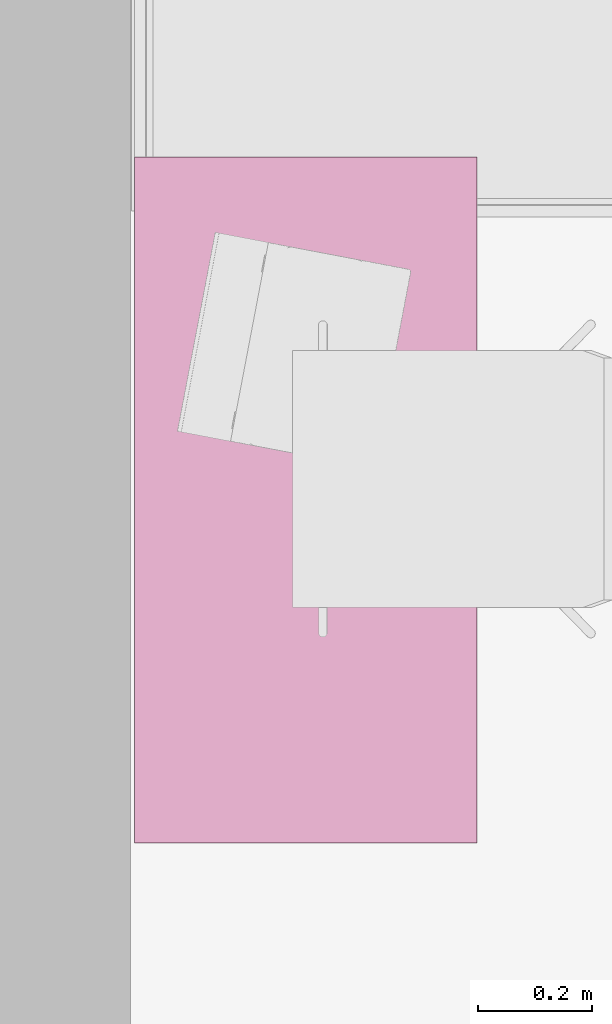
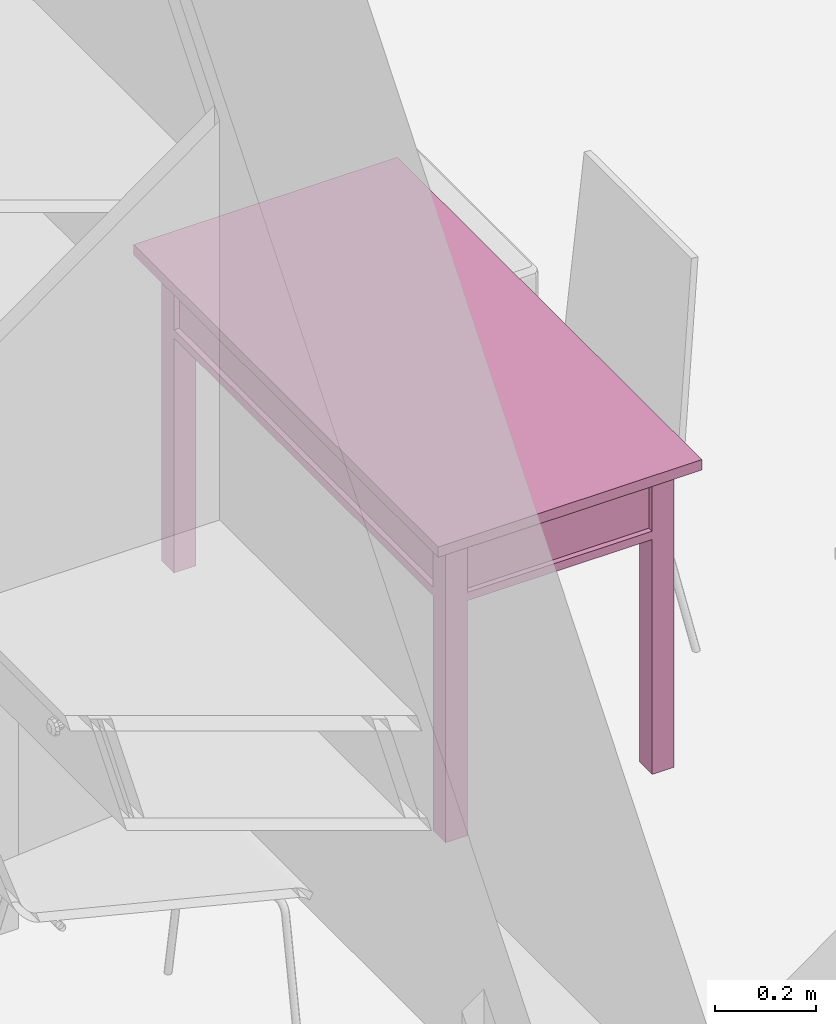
# One storey, part 128 of 172: 1 furnishing.
"""IFC2X3 building model written with IfcOpenShell, lengths in millimetres."""

import ifcopenshell
import ifcopenshell.guid

model = None  # the IFC model being written
_history = None  # IfcOwnerHistory: only IFC2X3 demands one
_inside = {}  # id of a spatial element -> (the spatial element, [elements in it])
_under = {}  # id of a project, library or spatial element -> (it, [spatial elements below it])
_declared = {}  # id of a project -> (the project, [libraries it declares])
_typed = {}  # id of a type object -> (the type object, [elements of that type])
_made_of = {}  # id of a material, layer set ... -> (it, [elements and type objects made of it])


def new_model(schema):
    """Start an empty IFC model of exactly this schema.

    Asked for "IFC4X3", IfcOpenShell would pick the latest addendum, in which some entities
    have other attributes; the version numbers below select the first issue.
    IFC2X3 requires an IfcOwnerHistory on every rooted entity: one is made here for all.
    """
    global model, _history
    if schema == "IFC4X3":
        model = ifcopenshell.file(schema_version=(4, 3, 0, 0))
    else:
        model = ifcopenshell.file(schema=schema)
    _inside.clear()
    _under.clear()
    _declared.clear()
    _typed.clear()
    _made_of.clear()
    _history = None
    if model.schema == "IFC2X3":
        org = make("IfcOrganization", Name="unknown")
        user = make(
            "IfcPersonAndOrganization",
            ThePerson=make("IfcPerson", FamilyName="unknown"),
            TheOrganization=org,
        )
        app = make(
            "IfcApplication",
            ApplicationDeveloper=org,
            Version="unknown",
            ApplicationFullName="unknown",
            ApplicationIdentifier="unknown",
        )
        _history = make(
            "IfcOwnerHistory",
            OwningUser=user,
            OwningApplication=app,
            ChangeAction="ADDED",
            CreationDate=0,
        )
    return model


def make(cls, **values):
    """One entity of the class cls with the attributes given. An attribute that is None is left unset."""
    return model.create_entity(
        cls, **{name: value for name, value in values.items() if value is not None}
    )


def entity(cls, *values):
    """Any entity or typed value of the class cls, its attributes in the order of the schema. None: left unset."""
    e = model.create_entity(cls)
    for i, value in enumerate(values):
        if value is not None:
            e[i] = value
    return e


def rooted(cls, **values):
    """An entity with a GlobalId (a new one), such as an element, a storey or a relation."""
    return make(cls, GlobalId=ifcopenshell.guid.new(), OwnerHistory=_history, **values)


def si_unit(unit_type, name, prefix=None):
    """IfcSIUnit, for example si_unit("LENGTHUNIT", "METRE", prefix="MILLI")."""
    return make("IfcSIUnit", UnitType=unit_type, Prefix=prefix, Name=name)


def converted_unit(unit_type, name, factor, base, dimensions=None, offset=None):
    """IfcConversionBasedUnit, such as the inch: factor (a typed value) times the base unit."""
    return make(
        "IfcConversionBasedUnit"
        if offset is None
        else "IfcConversionBasedUnitWithOffset",
        ConversionOffset=offset,
        Dimensions=None
        if dimensions is None
        else entity("IfcDimensionalExponents", *dimensions),
        UnitType=unit_type,
        Name=name,
        ConversionFactor=make(
            "IfcMeasureWithUnit", ValueComponent=factor, UnitComponent=base
        ),
    )


def money_unit(currency):
    """IfcMonetaryUnit."""
    return make("IfcMonetaryUnit", Currency=currency)


def assignment(units):
    """IfcUnitAssignment: the units of a project."""
    return None if units is None else make("IfcUnitAssignment", Units=units)


def point(xyz):
    """IfcCartesianPoint."""
    return None if xyz is None else make("IfcCartesianPoint", Coordinates=xyz)


def direction(xyz):
    """IfcDirection."""
    return None if xyz is None else make("IfcDirection", DirectionRatios=xyz)


def frame(location, z_axis=None, x_axis=None):
    """IfcAxis2Placement3D, a coordinate frame: its origin and axes. An axis left out is left unset."""
    return make(
        "IfcAxis2Placement3D",
        Location=point(location),
        Axis=direction(z_axis),
        RefDirection=direction(x_axis),
    )


def origin_with_axes():
    """The frame at (0, 0, 0) with the z axis (0, 0, 1) and the x axis (1, 0, 0) written out."""
    return frame((0.0, 0.0, 0.0), z_axis=(0.0, 0.0, 1.0), x_axis=(1.0, 0.0, 0.0))


def place(relative_to, where):
    """IfcLocalPlacement: puts the frame where relative to a parent placement (None: the world)."""
    return make(
        "IfcLocalPlacement", PlacementRelTo=relative_to, RelativePlacement=where
    )


def context(
    kind, dimensions, precision=None, world=None, true_north=None, identifier=None
):
    """IfcGeometricRepresentationContext, for example the 3D "Model" context."""
    return make(
        "IfcGeometricRepresentationContext",
        ContextIdentifier=identifier,
        ContextType=kind,
        CoordinateSpaceDimension=dimensions,
        Precision=precision,
        WorldCoordinateSystem=world,
        TrueNorth=true_north,
    )


def subcontext(parent, identifier, kind, view, scale=None):
    """IfcGeometricRepresentationSubContext, for example "Body" below "Model"."""
    return make(
        "IfcGeometricRepresentationSubContext",
        ContextIdentifier=identifier,
        ContextType=kind,
        ParentContext=parent,
        TargetScale=scale,
        TargetView=view,
    )


def project(units=None, contexts=None):
    """IfcProject with its units and contexts."""
    return rooted(
        "IfcProject",
        Name="project",
        RepresentationContexts=contexts,
        UnitsInContext=assignment(units),
    )


def spatial(cls, under=None, at=None, **own):
    """A site, building, storey or space (cls), placed at a placement, below another one or the project."""
    s = rooted(cls, ObjectPlacement=at, **own)
    if under is not None:
        _under.setdefault(under.id(), (under, []))[1].append(s)
    return s


def faces_of(points, faces, orient=None, outer=None):
    """IfcFace entities. A face is a list of loops; a loop is a list of indices into points, from 0.

    orient and outer hold one flag for each loop. By default every Orientation is true, the
    first loop of a face is its IfcFaceOuterBound and the others are IfcFaceBound.
    """
    made = []
    for i, loops in enumerate(faces):
        bounds = []
        for j, loop in enumerate(loops):
            is_outer = j == 0 if outer is None else outer[i][j]
            bounds.append(
                make(
                    "IfcFaceOuterBound" if is_outer else "IfcFaceBound",
                    Bound=make("IfcPolyLoop", Polygon=[points[k] for k in loop]),
                    Orientation=True if orient is None else orient[i][j],
                )
            )
        made.append(make("IfcFace", Bounds=bounds))
    return made


def faceted_brep(points, faces, orient=None, outer=None, voids=None):
    """IfcFacetedBrep: a solid bounded by flat faces; with voids (closed shells), ...WithVoids."""
    shared = [point(p) for p in points]
    hull = make("IfcClosedShell", CfsFaces=faces_of(shared, faces, orient, outer))
    if voids is None:
        return make("IfcFacetedBrep", Outer=hull)
    return make(
        "IfcFacetedBrepWithVoids",
        Outer=hull,
        Voids=[
            make(cls, CfsFaces=faces_of(shared, fs, o, b)) for cls, fs, o, b in voids
        ],
    )


def shape(context_of_items, identifier, shape_type, items):
    """IfcShapeRepresentation: the items that make up one representation, for example the "Body"."""
    return make(
        "IfcShapeRepresentation",
        ContextOfItems=context_of_items,
        RepresentationIdentifier=identifier,
        RepresentationType=shape_type,
        Items=items,
    )


def source(mapping_origin, context_of_items, identifier, shape_type, items):
    """IfcRepresentationMap: a shape defined once, which mapped items show again and again."""
    return make(
        "IfcRepresentationMap",
        MappingOrigin=mapping_origin,
        MappedRepresentation=shape(context_of_items, identifier, shape_type, items),
    )


def transform(
    local_origin,
    x_axis=None,
    y_axis=None,
    z_axis=None,
    scale=None,
    scale2=None,
    scale3=None,
    uniform=True,
):
    """IfcCartesianTransformationOperator3D, or its non-uniform kind. x_axis, y_axis, z_axis: its Axis1, 2, 3."""
    if uniform:
        return make(
            "IfcCartesianTransformationOperator3D",
            Axis1=direction(x_axis),
            Axis2=direction(y_axis),
            LocalOrigin=point(local_origin),
            Scale=scale,
            Axis3=direction(z_axis),
        )
    return make(
        "IfcCartesianTransformationOperator3DnonUniform",
        Axis1=direction(x_axis),
        Axis2=direction(y_axis),
        LocalOrigin=point(local_origin),
        Scale=scale,
        Axis3=direction(z_axis),
        Scale2=scale2,
        Scale3=scale3,
    )


def mapped(mapping_source, mapping_target):
    """IfcMappedItem: shows the shape of a source again, moved by a transform."""
    return make(
        "IfcMappedItem", MappingSource=mapping_source, MappingTarget=mapping_target
    )


def material(Name=None, Category=None):
    """IfcMaterial."""
    return make("IfcMaterial", Name=Name, Category=Category)


def material_list(materials):
    """IfcMaterialList."""
    return make("IfcMaterialList", Materials=materials)


def made_of(thing, what):
    """Note that an element or type object is made of a material, layer set ...; save() writes the relation."""
    if what is not None:
        _made_of.setdefault(what.id(), (what, []))[1].append(thing)
    return thing


def type_object(cls, material=None, **own):
    """A type object (cls), such as IfcWallType, which elements share."""
    return made_of(rooted(cls, **own), material)


def element(
    cls,
    number,
    at=None,
    inside=None,
    cuts=None,
    type_object=None,
    material=None,
    context=None,
    identifier="Body",
    shape_type=None,
    held_by="IfcProductDefinitionShape",
    body=None,
    shapes=None,
    **own,
):
    """One element of the class cls, such as IfcWall. Its Tag is "e" and its number.

    at: its placement. inside: the storey or other place that contains it. cuts: it is an
    opening in that element (IfcRelVoidsElement). A single representation is given by context,
    identifier, shape_type and body (its items); several are given by shapes. held_by: the class
    of the entity that holds the representations. save() writes the other relations.
    """
    e = rooted(cls, Tag="e%d" % number, ObjectPlacement=at, **own)
    if body is not None:
        shapes = [shape(context, identifier, shape_type, body)]
    if shapes is not None:
        e.Representation = make(held_by, Representations=shapes)
    if inside is not None:
        _inside.setdefault(inside.id(), (inside, []))[1].append(e)
    if cuts is not None:
        rooted(
            "IfcRelVoidsElement", RelatingBuildingElement=cuts, RelatedOpeningElement=e
        )
    if type_object is not None:
        _typed.setdefault(type_object.id(), (type_object, []))[1].append(e)
    return made_of(e, material)


def aggregate(whole, parts):
    """IfcRelAggregates: a whole, such as a stair, and the parts it consists of."""
    return rooted("IfcRelAggregates", RelatingObject=whole, RelatedObjects=parts)


def save(model, path):
    """Write the relations noted so far, then the file.

    IfcRelAggregates (storeys below a building ...), IfcRelContainedInSpatialStructure (elements
    in a storey), IfcRelDefinesByType, IfcRelAssociatesMaterial and IfcRelDeclares: one each for
    every whole, place, type object, material and project.
    """
    for whole, parts in _under.values():
        aggregate(whole, parts)
    for where, things in _inside.values():
        rooted(
            "IfcRelContainedInSpatialStructure",
            RelatedElements=things,
            RelatingStructure=where,
        )
    for kind, things in _typed.values():
        rooted("IfcRelDefinesByType", RelatedObjects=things, RelatingType=kind)
    for what, things in _made_of.values():
        rooted("IfcRelAssociatesMaterial", RelatedObjects=things, RelatingMaterial=what)
    for by, libraries in _declared.values():
        rooted("IfcRelDeclares", RelatingContext=by, RelatedDefinitions=libraries)
    model.write(path)


model = new_model("IFC2X3")

# Units and contexts
model_context = context("Model", 3, precision=1e-05, world=origin_with_axes(), true_north=direction((0.0, 1.0)))
body_context = subcontext(model_context, "Body", "Model", "MODEL_VIEW")
ifc_project = project(units=[si_unit("LENGTHUNIT", "METRE", prefix="MILLI"), si_unit("AREAUNIT", "SQUARE_METRE"), si_unit("VOLUMEUNIT", "CUBIC_METRE"), converted_unit("PLANEANGLEUNIT", "DEGREE", entity("IfcPlaneAngleMeasure", 0.0174532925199), si_unit("PLANEANGLEUNIT", "RADIAN"), dimensions=[0, 0, 0, 0, 0, 0, 0]), si_unit("SOLIDANGLEUNIT", "STERADIAN"), money_unit("USD"), converted_unit("TIMEUNIT", "Year", entity("IfcTimeMeasure", 31556926.0), si_unit("TIMEUNIT", "SECOND"), dimensions=[0, 0, 0, 0, 0, 0, 0]), si_unit("MASSUNIT", "GRAM"), si_unit("THERMODYNAMICTEMPERATUREUNIT", "DEGREE_CELSIUS"), si_unit("LUMINOUSINTENSITYUNIT", "LUMEN")], contexts=[model_context])

# Site, building, storey
site_placement = place(None, origin_with_axes())
site = spatial("IfcSite", under=ifc_project, at=site_placement, Name="Site", CompositionType="ELEMENT")
building_placement = place(site_placement, origin_with_axes())
building = spatial("IfcBuilding", under=site, at=building_placement, Name="Building", CompositionType="ELEMENT")
storey_placement = place(building_placement, frame((0.0, 0.0, 3200.0), z_axis=(0.0, 0.0, 1.0), x_axis=(1.0, 0.0, 0.0)))
storey = spatial("IfcBuildingStorey", under=building, at=storey_placement, Name="3KORRUS", CompositionType="ELEMENT", Elevation=3200.0)

# Furnishing
ifc_material = material(Name="Background")
ifc_material_list = material_list([ifc_material])
furnishing_element_type = type_object("IfcFurnishingElementType", Name="Rectangular Table 01 19")
shared_shape = source(origin_with_axes(), body_context, "Body", "Brep", [
    faceted_brep([(-90.0, 40.0, 0.0), (-90.0, 90.0, 0.0), (-40.0, 90.0, 0.0), (-40.0, 40.0, 0.0), (-90.0, 40.0, 725.0), (-90.0, 90.0, 725.0), (-40.0, 90.0, 725.0), (-40.0, 40.0, 725.0)], [[[0, 1, 2, 3]], [[0, 4, 5, 1]], [[1, 5, 6, 2]], [[2, 6, 7, 3]], [[3, 7, 4, 0]], [[7, 6, 5, 4]]]),
    faceted_brep([(-1160.0, 40.0, 0.0), (-1160.0, 90.0, 0.0), (-1110.0, 90.0, 0.0), (-1110.0, 40.0, 0.0), (-1160.0, 40.0, 725.0), (-1160.0, 90.0, 725.0), (-1110.0, 90.0, 725.0), (-1110.0, 40.0, 725.0)], [[[0, 1, 2, 3]], [[0, 4, 5, 1]], [[1, 5, 6, 2]], [[2, 6, 7, 3]], [[3, 7, 4, 0]], [[7, 6, 5, 4]]]),
    faceted_brep([(-90.0, 510.0, 0.0), (-90.0, 560.0, 0.0), (-40.0, 560.0, 0.0), (-40.0, 510.0, 0.0), (-90.0, 510.0, 725.0), (-90.0, 560.0, 725.0), (-40.0, 560.0, 725.0), (-40.0, 510.0, 725.0)], [[[0, 1, 2, 3]], [[0, 4, 5, 1]], [[1, 5, 6, 2]], [[2, 6, 7, 3]], [[3, 7, 4, 0]], [[7, 6, 5, 4]]]),
    faceted_brep([(-1160.0, 510.0, 0.0), (-1160.0, 560.0, 0.0), (-1110.0, 560.0, 0.0), (-1110.0, 510.0, 0.0), (-1160.0, 510.0, 725.0), (-1160.0, 560.0, 725.0), (-1110.0, 560.0, 725.0), (-1110.0, 510.0, 725.0)], [[[0, 1, 2, 3]], [[0, 4, 5, 1]], [[1, 5, 6, 2]], [[2, 6, 7, 3]], [[3, 7, 4, 0]], [[7, 6, 5, 4]]]),
    faceted_brep([(-1160.0, 40.0, 565.0), (-1160.0, 560.0, 565.0), (-40.0, 560.0, 565.0), (-40.0, 40.0, 565.0), (-1160.0, 40.0, 585.0), (-1160.0, 560.0, 585.0), (-40.0, 560.0, 585.0), (-40.0, 40.0, 585.0)], [[[0, 1, 2, 3]], [[0, 4, 5, 1]], [[1, 5, 6, 2]], [[2, 6, 7, 3]], [[3, 7, 4, 0]], [[7, 6, 5, 4]]]),
    faceted_brep([(-1110.0, 52.5, 585.0), (-1110.0, 77.5, 585.0), (-90.0, 77.5, 585.0), (-90.0, 52.5, 585.0), (-1110.0, 52.5, 745.0), (-1110.0, 77.5, 745.0), (-90.0, 77.5, 745.0), (-90.0, 52.5, 745.0)], [[[0, 1, 2, 3]], [[0, 4, 5, 1]], [[1, 5, 6, 2]], [[2, 6, 7, 3]], [[3, 7, 4, 0]], [[7, 6, 5, 4]]]),
    faceted_brep([(-77.5, 90.0, 585.0), (-77.5, 510.0, 585.0), (-52.5, 510.0, 585.0), (-52.5, 90.0, 585.0), (-77.5, 90.0, 745.0), (-77.5, 510.0, 745.0), (-52.5, 510.0, 745.0), (-52.5, 90.0, 745.0)], [[[0, 1, 2, 3]], [[0, 4, 5, 1]], [[1, 5, 6, 2]], [[2, 6, 7, 3]], [[3, 7, 4, 0]], [[7, 6, 5, 4]]]),
    faceted_brep([(-90.0, 547.5, 585.0), (-90.0, 522.5, 585.0), (-1110.0, 522.5, 585.0), (-1110.0, 547.5, 585.0), (-90.0, 547.5, 745.0), (-90.0, 522.5, 745.0), (-1110.0, 522.5, 745.0), (-1110.0, 547.5, 745.0)], [[[0, 1, 2, 3]], [[0, 4, 5, 1]], [[1, 5, 6, 2]], [[2, 6, 7, 3]], [[3, 7, 4, 0]], [[7, 6, 5, 4]]]),
    faceted_brep([(-1122.5, 510.0, 585.0), (-1122.5, 90.0, 585.0), (-1147.5, 90.0, 585.0), (-1147.5, 510.0, 585.0), (-1122.5, 510.0, 745.0), (-1122.5, 90.0, 745.0), (-1147.5, 90.0, 745.0), (-1147.5, 510.0, 745.0)], [[[0, 1, 2, 3]], [[0, 4, 5, 1]], [[1, 5, 6, 2]], [[2, 6, 7, 3]], [[3, 7, 4, 0]], [[7, 6, 5, 4]]]),
    faceted_brep([(-597.5, 40.0, 585.0), (-597.5, 60.0, 585.0), (-95.0, 60.0, 585.0), (-95.0, 40.0, 585.0), (-597.5, 40.0, 745.0), (-597.5, 60.0, 745.0), (-95.0, 60.0, 745.0), (-95.0, 40.0, 745.0)], [[[0, 1, 2, 3]], [[0, 4, 5, 1]], [[1, 5, 6, 2]], [[2, 6, 7, 3]], [[3, 7, 4, 0]], [[7, 6, 5, 4]]]),
    faceted_brep([(-1105.0, 40.0, 585.0), (-1105.0, 60.0, 585.0), (-602.5, 60.0, 585.0), (-602.5, 40.0, 585.0), (-1105.0, 40.0, 745.0), (-1105.0, 60.0, 745.0), (-602.5, 60.0, 745.0), (-602.5, 40.0, 745.0)], [[[0, 1, 2, 3]], [[0, 4, 5, 1]], [[1, 5, 6, 2]], [[2, 6, 7, 3]], [[3, 7, 4, 0]], [[7, 6, 5, 4]]]),
    faceted_brep([(-354.91, 40.0, 660.0), (-356.25, 40.0, 665.0), (-354.91, 40.0, 670.0), (-351.25, 40.0, 673.66), (-346.25, 40.0, 675.0), (-341.25, 40.0, 673.66), (-337.59, 40.0, 670.0), (-336.25, 40.0, 665.0), (-337.59, 40.0, 660.0), (-341.25, 40.0, 656.34), (-346.25, 40.0, 655.0), (-351.25, 40.0, 656.34), (-354.91, 25.0, 660.0), (-356.25, 25.0, 665.0), (-354.91, 25.0, 670.0), (-351.25, 25.0, 673.66), (-346.25, 25.0, 675.0), (-341.25, 25.0, 673.66), (-337.59, 25.0, 670.0), (-336.25, 25.0, 665.0), (-337.59, 25.0, 660.0), (-341.25, 25.0, 656.34), (-346.25, 25.0, 655.0), (-351.25, 25.0, 656.34)], [[[0, 1, 2, 3, 4, 5, 6, 7, 8, 9, 10, 11]], [[0, 12, 13, 1]], [[1, 13, 14, 2]], [[2, 14, 15, 3]], [[3, 15, 16, 4]], [[4, 16, 17, 5]], [[5, 17, 18, 6]], [[6, 18, 19, 7]], [[7, 19, 20, 8]], [[8, 20, 21, 9]], [[9, 21, 22, 10]], [[10, 22, 23, 11]], [[11, 23, 12, 0]], [[12, 23, 22, 21, 20, 19, 18, 17, 16, 15, 14, 13]]]),
    faceted_brep([(-356.25, 12.01, 665.0), (-354.91, 12.01, 660.0), (-346.25, 10.0, 665.0), (-363.571, 17.5, 665.0), (-361.25, 17.5, 656.34), (-351.25, 12.01, 656.34), (-354.91, 12.01, 670.0), (-366.25, 25.0, 665.0), (-363.571, 25.0, 655.0), (-354.91, 17.5, 650.0), (-361.25, 17.5, 673.66), (-346.25, 12.01, 655.0), (-351.25, 12.01, 673.66), (-363.571, 25.0, 675.0), (-356.25, 25.0, 682.321), (-346.25, 25.0, 685.0), (-336.25, 25.0, 682.321), (-328.929, 25.0, 675.0), (-326.25, 25.0, 665.0), (-328.929, 25.0, 655.0), (-336.25, 25.0, 647.679), (-346.25, 25.0, 645.0), (-356.25, 25.0, 647.679), (-346.25, 17.5, 647.679), (-354.91, 17.5, 680.0), (-341.25, 12.01, 656.34), (-346.25, 12.01, 675.0), (-346.25, 17.5, 682.321), (-337.59, 17.5, 680.0), (-331.25, 17.5, 673.66), (-328.929, 17.5, 665.0), (-331.25, 17.5, 656.34), (-337.59, 17.5, 650.0), (-337.59, 12.01, 660.0), (-341.25, 12.01, 673.66), (-337.59, 12.01, 670.0), (-336.25, 12.01, 665.0)], [[[0, 1, 2]], [[3, 4, 1, 0]], [[1, 5, 2]], [[6, 0, 2]], [[7, 8, 4, 3]], [[4, 9, 5, 1]], [[10, 3, 0, 6]], [[5, 11, 2]], [[12, 6, 2]], [[8, 7, 13, 14, 15, 16, 17, 18, 19, 20, 21, 22]], [[8, 22, 9, 4]], [[13, 7, 3, 10]], [[9, 23, 11, 5]], [[24, 10, 6, 12]], [[11, 25, 2]], [[26, 12, 2]], [[14, 13, 10, 24]], [[15, 14, 24, 27]], [[16, 15, 27, 28]], [[17, 16, 28, 29]], [[18, 17, 29, 30]], [[19, 18, 30, 31]], [[20, 19, 31, 32]], [[21, 20, 32, 23]], [[22, 21, 23, 9]], [[23, 32, 25, 11]], [[27, 24, 12, 26]], [[25, 33, 2]], [[34, 26, 2]], [[28, 27, 26, 34]], [[29, 28, 34, 35]], [[30, 29, 35, 36]], [[31, 30, 36, 33]], [[32, 31, 33, 25]], [[33, 36, 2]], [[35, 34, 2]], [[36, 35, 2]]]),
    faceted_brep([(-862.41, 40.0, 660.0), (-863.75, 40.0, 665.0), (-862.41, 40.0, 670.0), (-858.75, 40.0, 673.66), (-853.75, 40.0, 675.0), (-848.75, 40.0, 673.66), (-845.09, 40.0, 670.0), (-843.75, 40.0, 665.0), (-845.09, 40.0, 660.0), (-848.75, 40.0, 656.34), (-853.75, 40.0, 655.0), (-858.75, 40.0, 656.34), (-862.41, 25.0, 660.0), (-863.75, 25.0, 665.0), (-862.41, 25.0, 670.0), (-858.75, 25.0, 673.66), (-853.75, 25.0, 675.0), (-848.75, 25.0, 673.66), (-845.09, 25.0, 670.0), (-843.75, 25.0, 665.0), (-845.09, 25.0, 660.0), (-848.75, 25.0, 656.34), (-853.75, 25.0, 655.0), (-858.75, 25.0, 656.34)], [[[0, 1, 2, 3, 4, 5, 6, 7, 8, 9, 10, 11]], [[0, 12, 13, 1]], [[1, 13, 14, 2]], [[2, 14, 15, 3]], [[3, 15, 16, 4]], [[4, 16, 17, 5]], [[5, 17, 18, 6]], [[6, 18, 19, 7]], [[7, 19, 20, 8]], [[8, 20, 21, 9]], [[9, 21, 22, 10]], [[10, 22, 23, 11]], [[11, 23, 12, 0]], [[12, 23, 22, 21, 20, 19, 18, 17, 16, 15, 14, 13]]]),
    faceted_brep([(-863.75, 12.01, 665.0), (-862.41, 12.01, 660.0), (-853.75, 10.0, 665.0), (-871.071, 17.5, 665.0), (-868.75, 17.5, 656.34), (-858.75, 12.01, 656.34), (-862.41, 12.01, 670.0), (-873.75, 25.0, 665.0), (-871.071, 25.0, 655.0), (-862.41, 17.5, 650.0), (-868.75, 17.5, 673.66), (-853.75, 12.01, 655.0), (-858.75, 12.01, 673.66), (-871.071, 25.0, 675.0), (-863.75, 25.0, 682.321), (-853.75, 25.0, 685.0), (-843.75, 25.0, 682.321), (-836.429, 25.0, 675.0), (-833.75, 25.0, 665.0), (-836.429, 25.0, 655.0), (-843.75, 25.0, 647.679), (-853.75, 25.0, 645.0), (-863.75, 25.0, 647.679), (-853.75, 17.5, 647.679), (-862.41, 17.5, 680.0), (-848.75, 12.01, 656.34), (-853.75, 12.01, 675.0), (-853.75, 17.5, 682.321), (-845.09, 17.5, 680.0), (-838.75, 17.5, 673.66), (-836.429, 17.5, 665.0), (-838.75, 17.5, 656.34), (-845.09, 17.5, 650.0), (-845.09, 12.01, 660.0), (-848.75, 12.01, 673.66), (-845.09, 12.01, 670.0), (-843.75, 12.01, 665.0)], [[[0, 1, 2]], [[3, 4, 1, 0]], [[1, 5, 2]], [[6, 0, 2]], [[7, 8, 4, 3]], [[4, 9, 5, 1]], [[10, 3, 0, 6]], [[5, 11, 2]], [[12, 6, 2]], [[8, 7, 13, 14, 15, 16, 17, 18, 19, 20, 21, 22]], [[8, 22, 9, 4]], [[13, 7, 3, 10]], [[9, 23, 11, 5]], [[24, 10, 6, 12]], [[11, 25, 2]], [[26, 12, 2]], [[14, 13, 10, 24]], [[15, 14, 24, 27]], [[16, 15, 27, 28]], [[17, 16, 28, 29]], [[18, 17, 29, 30]], [[19, 18, 30, 31]], [[20, 19, 31, 32]], [[21, 20, 32, 23]], [[22, 21, 23, 9]], [[23, 32, 25, 11]], [[27, 24, 12, 26]], [[25, 33, 2]], [[34, 26, 2]], [[28, 27, 26, 34]], [[29, 28, 34, 35]], [[30, 29, 35, 36]], [[31, 30, 36, 33]], [[32, 31, 33, 25]], [[33, 36, 2]], [[35, 34, 2]], [[36, 35, 2]]]),
    faceted_brep([(-1200.0, 0.0, 725.0), (-1200.0, 600.0, 725.0), (0.0, 600.0, 725.0), (0.0, 0.0, 725.0), (-1200.0, 0.0, 750.0), (-1200.0, 600.0, 750.0), (0.0, 600.0, 750.0), (0.0, 0.0, 750.0)], [[[0, 1, 2, 3]], [[0, 4, 5, 1]], [[1, 5, 6, 2]], [[2, 6, 7, 3]], [[3, 7, 4, 0]], [[7, 6, 5, 4]]]),
])
furnishing_placement = place(storey_placement, frame((6615.99169205, -17334.8573505, 0.0), z_axis=(0.0, 0.0, 1.0), x_axis=(0.0, 1.0, 0.0)))
element("IfcFurnishingElement", 1, at=furnishing_placement, inside=storey, type_object=furnishing_element_type, material=ifc_material_list, Name="FU - 011", context=body_context, shape_type="MappedRepresentation", body=[
    mapped(shared_shape, transform((0.0, 0.0, 0.0))),
])

save(model, "model.ifc")
